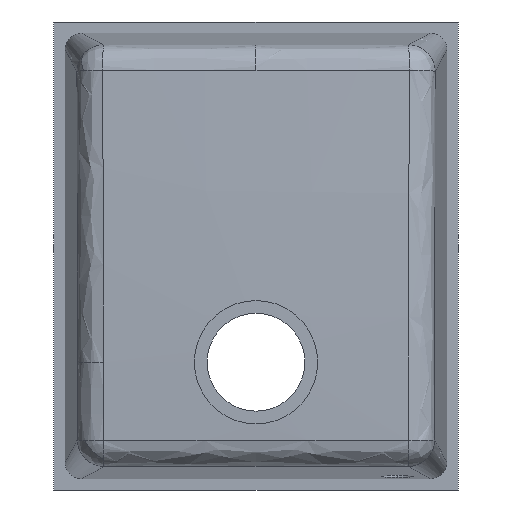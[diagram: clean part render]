
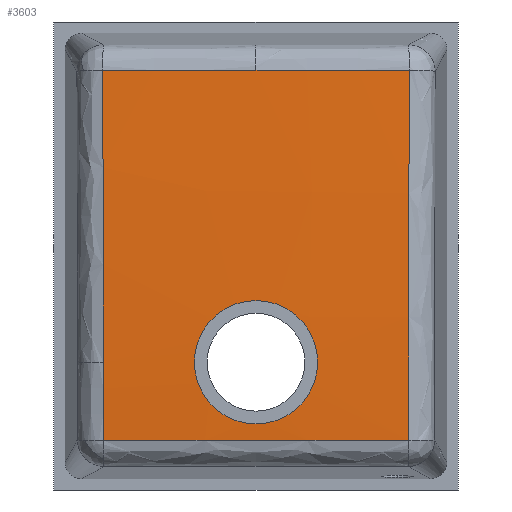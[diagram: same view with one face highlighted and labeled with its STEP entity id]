
A CAD part, front view. The second image highlights one B-rep face of the part: STEP entity #3603.
In plain terms, the highlighted free-form (B-spline) face has degree [3, 3] with [4, 4] control points.
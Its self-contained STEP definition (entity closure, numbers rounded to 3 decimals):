
#83 = CIRCLE ( 'NONE', #3637, 4985.727 ) ;
#100 = AXIS2_PLACEMENT_3D ( 'NONE', #1329, #3560, #2450 ) ;
#132 = ORIENTED_EDGE ( 'NONE', *, *, #1228, .T. ) ;
#205 = ORIENTED_EDGE ( 'NONE', *, *, #2709, .T. ) ;
#360 = DIRECTION ( 'NONE',  ( 0., 0.998, -0.07 ) ) ;
#389 = CARTESIAN_POINT ( 'NONE',  ( 157.088, -199.554, -172.11 ) ) ;
#738 = CARTESIAN_POINT ( 'NONE',  ( 359.176, -196.55, -177.128 ) ) ;
#754 = DIRECTION ( 'NONE',  ( 0.07, 0.998, 0. ) ) ;
#757 = CARTESIAN_POINT ( 'NONE',  ( 59.698, -197.313, -411.084 ) ) ;
#882 = CIRCLE ( 'NONE', #2689, 58. ) ;
#904 = AXIS2_PLACEMENT_3D ( 'NONE', #1025, #2887, #3632 ) ;
#944 = VERTEX_POINT ( 'NONE', #1132 ) ;
#1025 = CARTESIAN_POINT ( 'NONE',  ( 205., -199.664, -334.889 ) ) ;
#1132 = CARTESIAN_POINT ( 'NONE',  ( 205., -199.664, -392.889 ) ) ;
#1135 = CARTESIAN_POINT ( 'NONE',  ( 253.363, -200.13, -410.685 ) ) ;
#1227 = AXIS2_PLACEMENT_3D ( 'NONE', #3050, #3779, #4168 ) ;
#1228 = EDGE_CURVE ( 'NONE', #1788, #4092, #83, .T. ) ;
#1303 = VERTEX_POINT ( 'NONE', #4002 ) ;
#1329 = CARTESIAN_POINT ( 'NONE',  ( 205., 4766.556, 286.389 ) ) ;
#1412 = CARTESIAN_POINT ( 'NONE',  ( 348.624, -197.403, -408.273 ) ) ;
#1441 = CARTESIAN_POINT ( 'NONE',  ( 54.394, -189.916, -55.14 ) ) ;
#1484 = CARTESIAN_POINT ( 'NONE',  ( 156.777, -201.96, -290.84 ) ) ;
#1606 = ORIENTED_EDGE ( 'NONE', *, *, #2177, .T. ) ;
#1691 = FACE_BOUND ( 'NONE', #4318, .T. ) ;
#1733 = ORIENTED_EDGE ( 'NONE', *, *, #4038, .T. ) ;
#1788 = VERTEX_POINT ( 'NONE', #4554 ) ;
#1835 = CARTESIAN_POINT ( 'NONE',  ( 260.534, -192.914, -54.715 ) ) ;
#1868 = CARTESIAN_POINT ( 'NONE',  ( 363.515, -189.867, -58.659 ) ) ;
#1978 = VERTEX_POINT ( 'NONE', #2042 ) ;
#2031 = EDGE_CURVE ( 'NONE', #2367, #1978, #3323, .T. ) ;
#2042 = CARTESIAN_POINT ( 'NONE',  ( 60.886, -190.39, -60.235 ) ) ;
#2074 = VERTEX_POINT ( 'NONE', #1412 ) ;
#2158 = CIRCLE ( 'NONE', #4147, 4971.139 ) ;
#2177 = EDGE_CURVE ( 'NONE', #944, #4207, #882, .T. ) ;
#2229 = CARTESIAN_POINT ( 'NONE',  ( 205., 4780.528, -756.364 ) ) ;
#2236 = CARTESIAN_POINT ( 'NONE',  ( 350.112, -197.267, -414.39 ) ) ;
#2247 = DIRECTION ( 'NONE',  ( 0., 0.07, 0.998 ) ) ;
#2267 = CARTESIAN_POINT ( 'NONE',  ( 61.376, -197.403, -408.273 ) ) ;
#2301 = ORIENTED_EDGE ( 'NONE', *, *, #3527, .T. ) ;
#2336 = CIRCLE ( 'NONE', #2351, 4992.153 ) ;
#2351 = AXIS2_PLACEMENT_3D ( 'NONE', #2229, #2247, #360 ) ;
#2364 = ORIENTED_EDGE ( 'NONE', *, *, #3935, .T. ) ;
#2367 = VERTEX_POINT ( 'NONE', #3445 ) ;
#2404 = DIRECTION ( 'NONE',  ( 0.998, 0.07, 0. ) ) ;
#2450 = DIRECTION ( 'NONE',  ( 0., -0.998, -0.07 ) ) ;
#2687 = CARTESIAN_POINT ( 'NONE',  ( 696.373, 4775.64, -334.889 ) ) ;
#2689 = AXIS2_PLACEMENT_3D ( 'NONE', #3586, #3165, #4668 ) ;
#2709 = EDGE_CURVE ( 'NONE', #2074, #1303, #2795, .T. ) ;
#2773 = DIRECTION ( 'NONE',  ( 0.07, -0.998, 0. ) ) ;
#2795 = CIRCLE ( 'NONE', #3825, 4985.727 ) ;
#2887 = DIRECTION ( 'NONE',  ( 0., 1., 0. ) ) ;
#2952 = EDGE_CURVE ( 'NONE', #4207, #944, #3788, .T. ) ;
#2979 = CARTESIAN_POINT ( 'NONE',  ( 255.797, -201.944, -291.967 ) ) ;
#3050 = CARTESIAN_POINT ( 'NONE',  ( -286.373, 4775.64, -334.889 ) ) ;
#3165 = DIRECTION ( 'NONE',  ( 0., 1., 0. ) ) ;
#3296 = CARTESIAN_POINT ( 'NONE',  ( 205., 4766.556, 286.389 ) ) ;
#3323 = CIRCLE ( 'NONE', #100, 4971.139 ) ;
#3328 = CARTESIAN_POINT ( 'NONE',  ( 57.806, -199.064, -292.375 ) ) ;
#3347 = CARTESIAN_POINT ( 'NONE',  ( 56.037, -196.598, -173.677 ) ) ;
#3384 = CIRCLE ( 'NONE', #1227, 4985.727 ) ;
#3408 = EDGE_LOOP ( 'NONE', ( #205, #2301, #4455, #1733, #132, #2364 ) ) ;
#3445 = CARTESIAN_POINT ( 'NONE',  ( 205., -192.474, -60.38 ) ) ;
#3527 = EDGE_CURVE ( 'NONE', #1303, #2367, #2158, .T. ) ;
#3560 = DIRECTION ( 'NONE',  ( 0., 0.07, -0.998 ) ) ;
#3586 = CARTESIAN_POINT ( 'NONE',  ( 205., -199.664, -334.889 ) ) ;
#3603 = ADVANCED_FACE ( 'NONE', ( #1691, #4531 ), #4600, .T. ) ;
#3632 = DIRECTION ( 'NONE',  ( 0., 0., -1. ) ) ;
#3637 = AXIS2_PLACEMENT_3D ( 'NONE', #4614, #2404, #2773 ) ;
#3676 = DIRECTION ( 'NONE',  ( 0., -0.998, -0.07 ) ) ;
#3725 = CARTESIAN_POINT ( 'NONE',  ( 258.188, -199.538, -173.26 ) ) ;
#3749 = CARTESIAN_POINT ( 'NONE',  ( 205., -199.664, -276.889 ) ) ;
#3779 = DIRECTION ( 'NONE',  ( 0.998, 0.07, 0. ) ) ;
#3788 = CIRCLE ( 'NONE', #904, 58. ) ;
#3825 = AXIS2_PLACEMENT_3D ( 'NONE', #2687, #4521, #754 ) ;
#3935 = EDGE_CURVE ( 'NONE', #4092, #2074, #2336, .T. ) ;
#4002 = CARTESIAN_POINT ( 'NONE',  ( 349.114, -190.39, -60.235 ) ) ;
#4038 = EDGE_CURVE ( 'NONE', #1978, #1788, #3384, .T. ) ;
#4049 = CARTESIAN_POINT ( 'NONE',  ( 157.439, -192.93, -53.541 ) ) ;
#4092 = VERTEX_POINT ( 'NONE', #2267 ) ;
#4096 = CARTESIAN_POINT ( 'NONE',  ( 354.707, -199.017, -295.755 ) ) ;
#4100 = ORIENTED_EDGE ( 'NONE', *, *, #2952, .T. ) ;
#4147 = AXIS2_PLACEMENT_3D ( 'NONE', #3296, #4381, #3676 ) ;
#4168 = DIRECTION ( 'NONE',  ( 0.07, -0.998, 0. ) ) ;
#4207 = VERTEX_POINT ( 'NONE', #3749 ) ;
#4318 = EDGE_LOOP ( 'NONE', ( #1606, #4100 ) ) ;
#4381 = DIRECTION ( 'NONE',  ( 0., 0.07, -0.998 ) ) ;
#4448 = CARTESIAN_POINT ( 'NONE',  ( 156.507, -200.145, -409.583 ) ) ;
#4455 = ORIENTED_EDGE ( 'NONE', *, *, #2031, .T. ) ;
#4521 = DIRECTION ( 'NONE',  ( -0.998, 0.07, 0. ) ) ;
#4531 = FACE_OUTER_BOUND ( 'NONE', #3408, .T. ) ;
#4554 = CARTESIAN_POINT ( 'NONE',  ( 61.414, -197.942, -334.889 ) ) ;
#4600 =( BOUNDED_SURFACE ( )  B_SPLINE_SURFACE ( 3, 3, ( 
 ( #1441, #4049, #1835, #1868 ),
 ( #3347, #389, #3725, #738 ),
 ( #3328, #1484, #2979, #4096 ),
 ( #757, #4448, #1135, #2236 ) ),
 .UNSPECIFIED., .F., .F., .T. ) 
 B_SPLINE_SURFACE_WITH_KNOTS ( ( 4, 4 ),
 ( 4, 4 ),
 ( 0., 1. ),
 ( 0., 1. ),
 .UNSPECIFIED. ) 
 GEOMETRIC_REPRESENTATION_ITEM ( )  RATIONAL_B_SPLINE_SURFACE ( (
 ( 1., 0.999, 0.999, 1.),
 ( 1., 0.999, 0.999, 1.),
 ( 1., 0.999, 0.999, 1.),
 ( 1., 0.999, 0.999, 1.) ) ) 
 REPRESENTATION_ITEM ( '' )  SURFACE ( )  );
#4614 = CARTESIAN_POINT ( 'NONE',  ( -286.373, 4775.64, -334.889 ) ) ;
#4668 = DIRECTION ( 'NONE',  ( 0., 0., -1. ) ) ;
